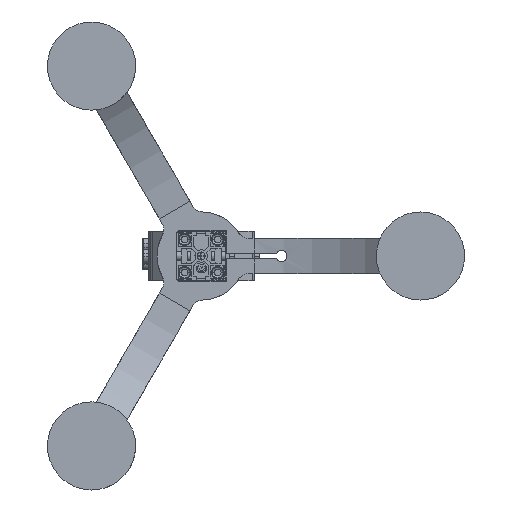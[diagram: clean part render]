
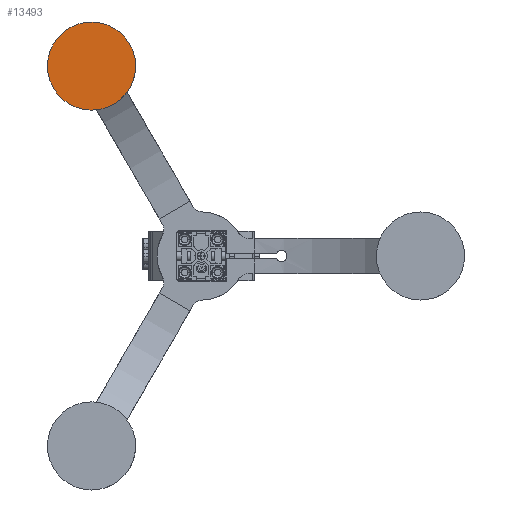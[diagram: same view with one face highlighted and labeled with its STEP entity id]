
A CAD part, front view. The second image highlights one B-rep face of the part: STEP entity #13493.
In plain terms, the highlighted planar face has unit normal (0, -1, 0).
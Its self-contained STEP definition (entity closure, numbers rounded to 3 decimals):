
#3110 = CIRCLE ( 'NONE', #48991, 40. ) ;
#3117 = CIRCLE ( 'NONE', #48996, 40. ) ;
#4726 = CARTESIAN_POINT ( 'NONE',  ( -147.5, -1105.064, 149.839 ) ) ;
#4727 = DIRECTION ( 'NONE',  ( 0., 1., 0. ) ) ;
#4728 = DIRECTION ( 'NONE',  ( -0.165, 0., 0.986 ) ) ;
#4785 = CARTESIAN_POINT ( 'NONE',  ( -147.5, -1105.064, 149.839 ) ) ;
#4786 = DIRECTION ( 'NONE',  ( 0., 1., 0. ) ) ;
#4787 = DIRECTION ( 'NONE',  ( -0.165, 0., 0.986 ) ) ;
#5378 = VERTEX_POINT ( 'NONE', #13001 ) ;
#5479 = VERTEX_POINT ( 'NONE', #13102 ) ;
#13001 = CARTESIAN_POINT ( 'NONE',  ( -140.912, -1105.064, 110.385 ) ) ;
#13102 = CARTESIAN_POINT ( 'NONE',  ( -154.088, -1105.064, 189.293 ) ) ;
#13493 = ADVANCED_FACE ( 'NONE', ( #24576 ), #27527, .T. ) ;
#20572 = EDGE_LOOP ( 'NONE', ( #22138, #22139 ) ) ;
#22138 = ORIENTED_EDGE ( 'NONE', *, *, #33559, .F. ) ;
#22139 = ORIENTED_EDGE ( 'NONE', *, *, #33568, .F. ) ;
#23994 = AXIS2_PLACEMENT_3D ( 'NONE', #27523, #27529, #27530 ) ;
#24576 = FACE_OUTER_BOUND ( 'NONE', #20572, .T. ) ;
#27523 = CARTESIAN_POINT ( 'NONE',  ( -186.954, -1105.064, 143.251 ) ) ;
#27527 = PLANE ( 'NONE',  #23994 ) ;
#27529 = DIRECTION ( 'NONE',  ( 0., -1., 0. ) ) ;
#27530 = DIRECTION ( 'NONE',  ( 0.165, 0., -0.986 ) ) ;
#33559 = EDGE_CURVE ( 'NONE', #5479, #5378, #3110, .T. ) ;
#33568 = EDGE_CURVE ( 'NONE', #5378, #5479, #3117, .T. ) ;
#48991 = AXIS2_PLACEMENT_3D ( 'NONE', #4726, #4727, #4728 ) ;
#48996 = AXIS2_PLACEMENT_3D ( 'NONE', #4785, #4786, #4787 ) ;
